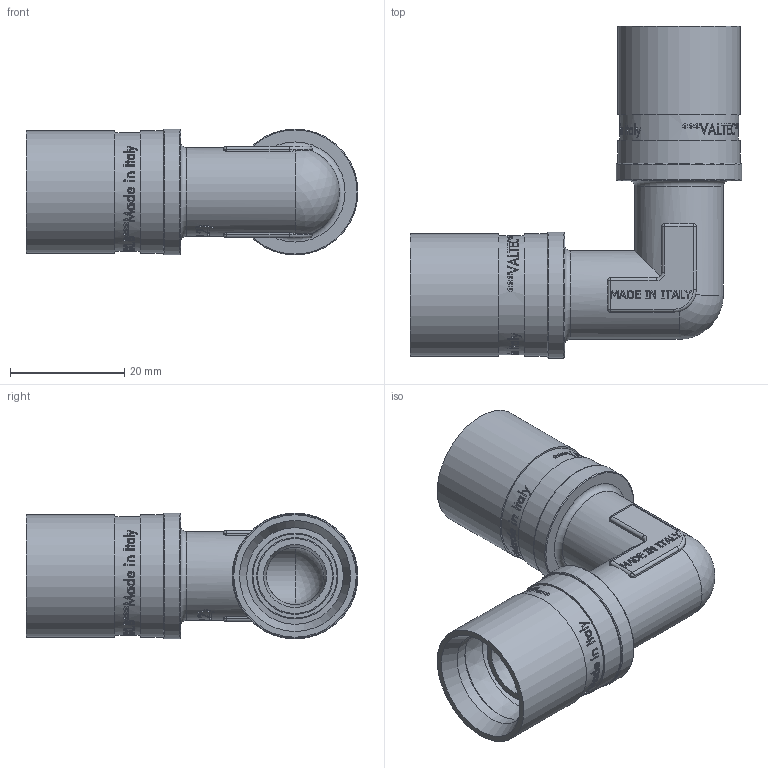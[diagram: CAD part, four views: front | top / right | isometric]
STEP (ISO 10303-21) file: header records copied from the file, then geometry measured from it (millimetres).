
FILE_DESCRIPTION(/* description */ (''),/* implementation_level */ '2;1');
FILE_NAME(/* name */ 'F:\Артём\00000\Работа удаленка\Аксеальные фитинги\VTm.451.BG.001616.stp',/* time_stamp */ '2021-01-27T11:22:38+03:00',/* author */ ('almis'),/* organization */ (''),/* preprocessor_version */ 'ST-DEVELOPER v18',/* originating_system */ 'Autodesk Inventor 2020',/* authorisation */ '');
FILE_SCHEMA (('AUTOMOTIVE_DESIGN { 1 0 10303 214 3 1 1 }'));
Length unit declared in the file: millimetre
Products named in the file (1): VTm.451.BG.001616
Bounding box: 58.01 x 58.01 x 22 mm (x, y, z)
Volume: 14138.1 mm3; surface area: 13037.4 mm2
Topology: 1 solids, 1 shells, 1723 faces, 4728 edges, 3166 vertices
Faces by surface type: bspline 822, plane 635, cylinder 192, torus 50, cone 14, sphere 10
Full cylindrical faces by diameter (mm): 10 x2, 12.8 x10, 13.4 x8, 15 x2, 15.5 x2, 16.9 x4, 20.8 x2, 21.4 x4, 22 x2
Entity records: 69795 total; most frequent: CARTESIAN_POINT 30816, ORIENTED_EDGE 9456, DIRECTION 5684, EDGE_CURVE 4728, VERTEX_POINT 3166, LINE 2232, VECTOR 2232, EDGE_LOOP 1884
